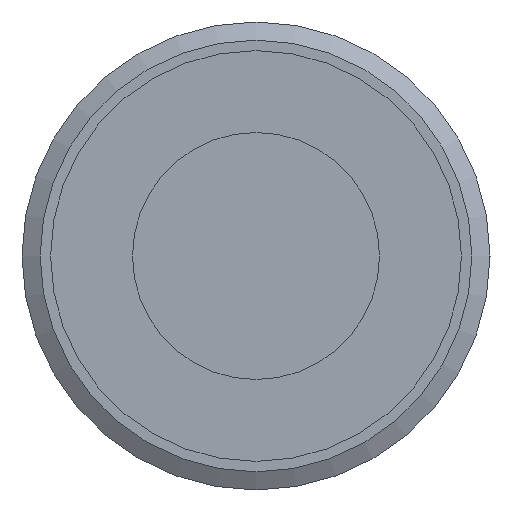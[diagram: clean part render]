
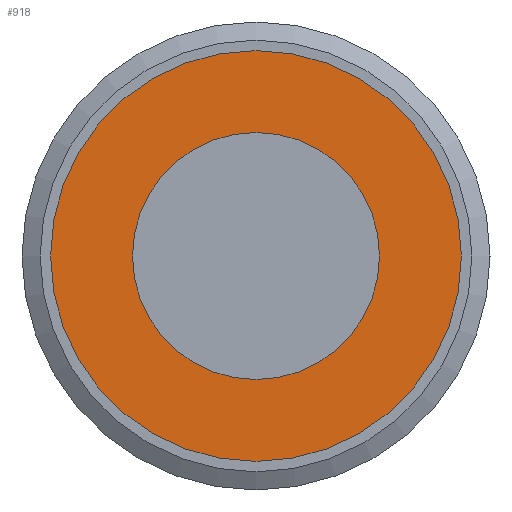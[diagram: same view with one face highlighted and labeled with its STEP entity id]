
A CAD part, left-side view. The second image highlights one B-rep face of the part: STEP entity #918.
In plain terms, the highlighted planar face has unit normal (-1, 0, 0).
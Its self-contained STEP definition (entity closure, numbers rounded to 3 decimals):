
#59=PLANE('',#976);
#73=ORIENTED_EDGE('',*,*,#193,.T.);
#74=ORIENTED_EDGE('',*,*,#192,.T.);
#192=EDGE_CURVE('',#252,#252,#305,.T.);
#193=EDGE_CURVE('',#253,#253,#306,.T.);
#252=VERTEX_POINT('',#1285);
#253=VERTEX_POINT('',#1288);
#305=CIRCLE('',#975,7.9);
#306=CIRCLE('',#977,4.75);
#354=EDGE_LOOP('',(#73));
#355=EDGE_LOOP('',(#74));
#447=FACE_BOUND('',#354,.T.);
#448=FACE_BOUND('',#355,.T.);
#918=ADVANCED_FACE('',(#447,#448),#59,.T.);
#975=AXIS2_PLACEMENT_3D('',#1284,#1078,#1079);
#976=AXIS2_PLACEMENT_3D('',#1286,#1080,#1081);
#977=AXIS2_PLACEMENT_3D('',#1287,#1082,#1083);
#1078=DIRECTION('',(-1.,0.,0.));
#1079=DIRECTION('',(0.,1.,0.));
#1080=DIRECTION('',(-1.,0.,0.));
#1081=DIRECTION('',(0.,0.,1.));
#1082=DIRECTION('',(1.,0.,0.));
#1083=DIRECTION('',(0.,-1.,0.));
#1284=CARTESIAN_POINT('',(-1.,0.,0.));
#1285=CARTESIAN_POINT('',(-1.,7.9,0.));
#1286=CARTESIAN_POINT('',(-1.,0.,0.));
#1287=CARTESIAN_POINT('',(-1.,0.,0.));
#1288=CARTESIAN_POINT('',(-1.,-4.75,0.));
